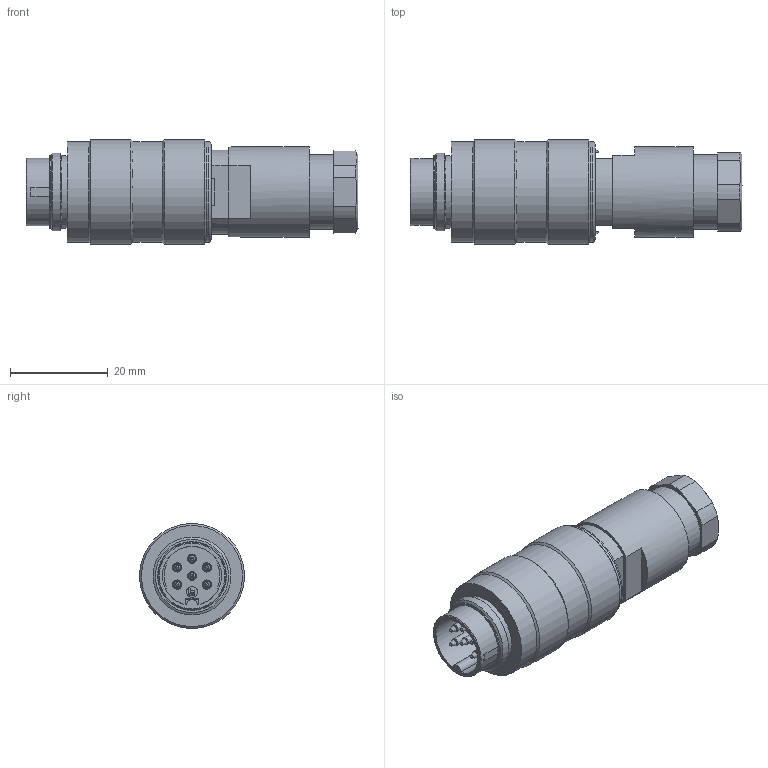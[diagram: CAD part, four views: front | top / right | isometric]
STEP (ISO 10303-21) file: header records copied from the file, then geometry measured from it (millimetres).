
FILE_DESCRIPTION(/* description */ (''),/* implementation_level */ '2;1');
FILE_NAME(/* name */ '09_0121_70_06-001-Kabelstecker.stp',/* time_stamp */ '2017-04-10T11:45:36+02:00',/* author */ (''),/* organization */ (''),/* preprocessor_version */ 'ST-DEVELOPER v16',/* originating_system */ 'SIEMENS PLM Software NX 11.0',/* authorisation */ '');
FILE_SCHEMA (('AUTOMOTIVE_DESIGN { 1 0 10303 214 3 1 1 1 }'));
Length unit declared in the file: millimetre
Products named in the file (1): jbyc187081336r92
Bounding box: 68 x 21.42 x 21.42 mm (x, y, z)
Volume: 17563.9 mm3; surface area: 5974.6 mm2
Topology: 1 solids, 1 shells, 155 faces, 377 edges, 240 vertices
Faces by surface type: plane 75, cylinder 40, cone 22, bspline 12, revolution 4, torus 2
Full cylindrical faces by diameter (mm): 1.49 x6, 2.25 x1, 9.5 x1, 13.8 x1, 14.1 x1, 15 x2, 15.2 x1, 16 x1, 18.5 x1, 20.7 x3, 21.5 x2
Entity records: 4471 total; most frequent: CARTESIAN_POINT 1093, DIRECTION 709, ORIENTED_EDGE 606, EDGE_CURVE 303, AXIS2_PLACEMENT_3D 278, EDGE_LOOP 233, VERTEX_POINT 222, ADVANCED_FACE 155
